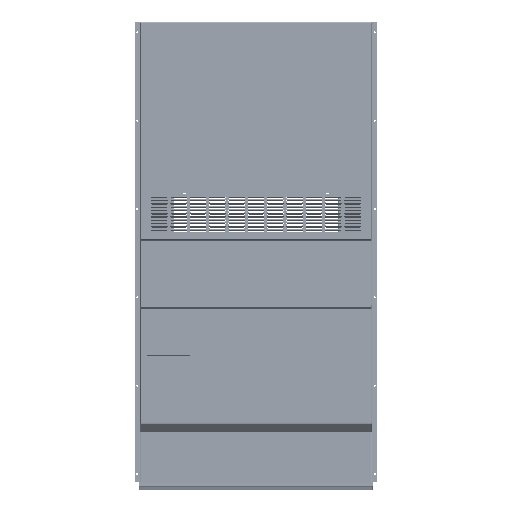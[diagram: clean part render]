
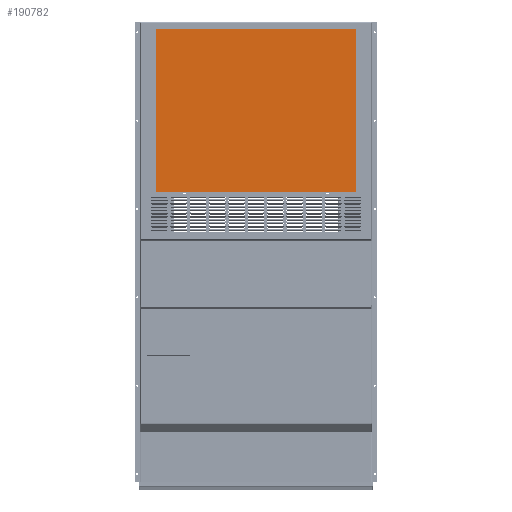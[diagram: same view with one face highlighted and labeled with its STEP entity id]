
A CAD part, left-side view. The second image highlights one B-rep face of the part: STEP entity #190782.
In plain terms, the highlighted planar face has unit normal (-1, 0, 0) as drawn and (0, 0, 1) by its records, which use the part's own axes.
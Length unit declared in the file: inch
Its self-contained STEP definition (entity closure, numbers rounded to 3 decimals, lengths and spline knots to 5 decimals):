
#2229 = VECTOR ( 'NONE', #36857, 39.37008 ) ;
#2599 = DIRECTION ( 'NONE',  ( -1., 0., 0. ) ) ;
#7249 = VERTEX_POINT ( 'NONE', #41355 ) ;
#18964 = VERTEX_POINT ( 'NONE', #211101 ) ;
#35272 = PLANE ( 'NONE',  #46795 ) ;
#36857 = DIRECTION ( 'NONE',  ( 0., 1., 0. ) ) ;
#37896 = VECTOR ( 'NONE', #126229, 39.37008 ) ;
#41355 = CARTESIAN_POINT ( 'NONE',  ( -17.97214, 17.39802, 0.02 ) ) ;
#43294 = VECTOR ( 'NONE', #2599, 39.37008 ) ;
#46795 = AXIS2_PLACEMENT_3D ( 'NONE', #103219, #132244, #81024 ) ;
#53768 = CARTESIAN_POINT ( 'NONE',  ( 18.27786, 17.39802, 0.02 ) ) ;
#62533 = ORIENTED_EDGE ( 'NONE', *, *, #157870, .T. ) ;
#72735 = EDGE_CURVE ( 'NONE', #172773, #18964, #209831, .T. ) ;
#72881 = EDGE_LOOP ( 'NONE', ( #119745, #62533, #145300, #214288 ) ) ;
#80525 = CARTESIAN_POINT ( 'NONE',  ( -17.97214, -12.05233, 0.02 ) ) ;
#81024 = DIRECTION ( 'NONE',  ( 1., 0., 0. ) ) ;
#88298 = VERTEX_POINT ( 'NONE', #219887 ) ;
#103219 = CARTESIAN_POINT ( 'NONE',  ( 0., 0., 0.02 ) ) ;
#119745 = ORIENTED_EDGE ( 'NONE', *, *, #141149, .T. ) ;
#121714 = LINE ( 'NONE', #53768, #43294 ) ;
#125133 = CARTESIAN_POINT ( 'NONE',  ( 18.27786, -12.05233, 0.02 ) ) ;
#126229 = DIRECTION ( 'NONE',  ( 1., 0., 0. ) ) ;
#132244 = DIRECTION ( 'NONE',  ( 0., 0., 1. ) ) ;
#141149 = EDGE_CURVE ( 'NONE', #18964, #88298, #143727, .T. ) ;
#143727 = LINE ( 'NONE', #211747, #2229 ) ;
#145300 = ORIENTED_EDGE ( 'NONE', *, *, #196735, .T. ) ;
#148452 = DIRECTION ( 'NONE',  ( 0., -1., 0. ) ) ;
#157870 = EDGE_CURVE ( 'NONE', #88298, #7249, #121714, .T. ) ;
#172773 = VERTEX_POINT ( 'NONE', #201295 ) ;
#187924 = FACE_OUTER_BOUND ( 'NONE', #72881, .T. ) ;
#190782 = ADVANCED_FACE ( 'NONE', ( #187924 ), #35272, .T. ) ;
#193166 = LINE ( 'NONE', #80525, #198219 ) ;
#196735 = EDGE_CURVE ( 'NONE', #7249, #172773, #193166, .T. ) ;
#198219 = VECTOR ( 'NONE', #148452, 39.37008 ) ;
#201295 = CARTESIAN_POINT ( 'NONE',  ( -17.97214, -12.05233, 0.02 ) ) ;
#209831 = LINE ( 'NONE', #125133, #37896 ) ;
#211101 = CARTESIAN_POINT ( 'NONE',  ( 18.27786, -12.05233, 0.02 ) ) ;
#211747 = CARTESIAN_POINT ( 'NONE',  ( 18.27786, -12.05233, 0.02 ) ) ;
#214288 = ORIENTED_EDGE ( 'NONE', *, *, #72735, .T. ) ;
#219887 = CARTESIAN_POINT ( 'NONE',  ( 18.27786, 17.39802, 0.02 ) ) ;
